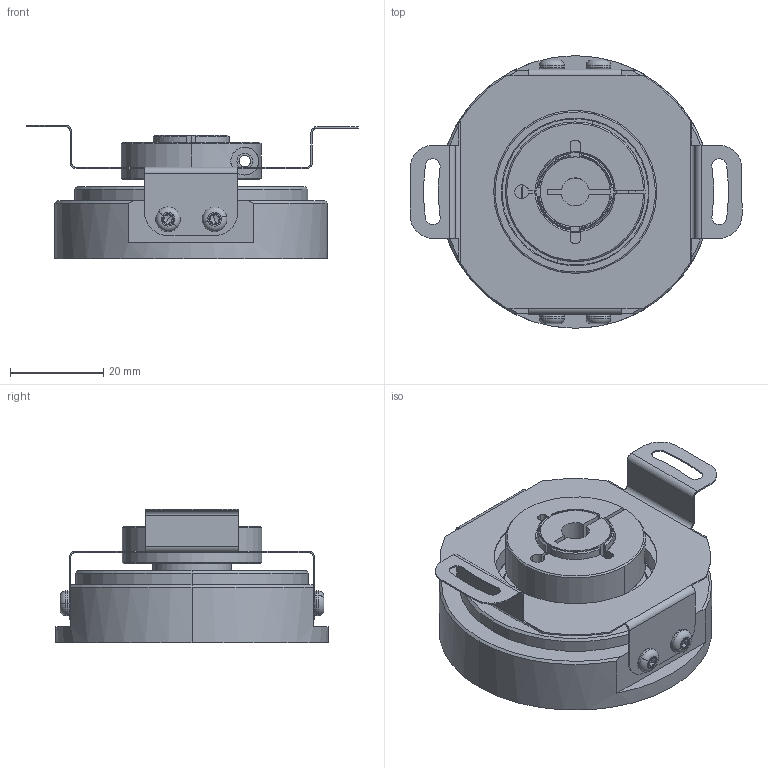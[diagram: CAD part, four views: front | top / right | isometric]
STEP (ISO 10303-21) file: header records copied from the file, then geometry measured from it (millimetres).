
FILE_DESCRIPTION (( 'STEP AP203' ), '1' );
FILE_NAME ('MCD-H060-Q5B-N.STEP', '2013-04-15T06:49:17', ( '' ), ( '' ), 'SwSTEP 2.0', 'SolidWorks 2006104', '' );
FILE_SCHEMA (( 'CONFIG_CONTROL_DESIGN' ));
Length unit declared in the file: millimetre
Products named in the file (1): MCD-H060-Q5B-N
Bounding box: 71.24 x 58.5 x 28.73 mm (x, y, z)
Surface area: 24454.1 mm2 (no closed solid volume)
Topology: 0 solids, 11 shells, 501 faces, 1269 edges, 803 vertices
Faces by surface type: cylinder 169, plane 147, cone 121, torus 60, bspline 4
Entity records: 16476 total; most frequent: CARTESIAN_POINT 4087, DIRECTION 2758, ORIENTED_EDGE 2506, EDGE_CURVE 1261, AXIS2_PLACEMENT_3D 1163, VERTEX_POINT 803, CIRCLE 665, EDGE_LOOP 556
